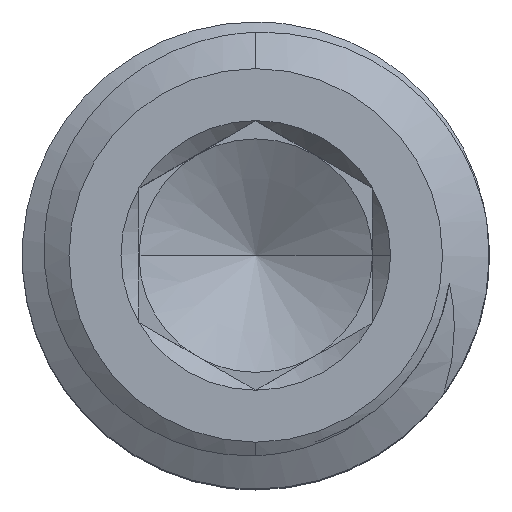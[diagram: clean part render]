
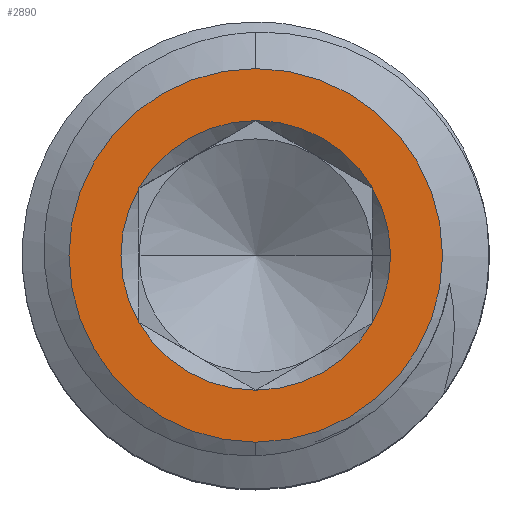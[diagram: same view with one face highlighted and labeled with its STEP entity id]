
A CAD part, top view. The second image highlights one B-rep face of the part: STEP entity #2890.
In plain terms, the highlighted planar face has unit normal (0, 0, 1).
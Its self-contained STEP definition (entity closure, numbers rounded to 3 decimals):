
#74 = DIRECTION ( 'NONE',  ( 1., 0., 0. ) ) ;
#157 = ORIENTED_EDGE ( 'NONE', *, *, #3527, .F. ) ;
#208 = ORIENTED_EDGE ( 'NONE', *, *, #2863, .F. ) ;
#242 = CIRCLE ( 'NONE', #3319, 2.4 ) ;
#295 = DIRECTION ( 'NONE',  ( 1., 0., 0. ) ) ;
#298 = CIRCLE ( 'NONE', #2939, 2.4 ) ;
#334 = EDGE_CURVE ( 'NONE', #3507, #2330, #1679, .T. ) ;
#372 = DIRECTION ( 'NONE',  ( 0., 0., 1. ) ) ;
#383 = DIRECTION ( 'NONE',  ( 0., 0., 1. ) ) ;
#386 = VERTEX_POINT ( 'NONE', #2826 ) ;
#403 = CARTESIAN_POINT ( 'NONE',  ( 0., 0., 4.506 ) ) ;
#428 = DIRECTION ( 'NONE',  ( 1., 0., 0. ) ) ;
#445 = DIRECTION ( 'NONE',  ( 0., 0., -1. ) ) ;
#485 = AXIS2_PLACEMENT_3D ( 'NONE', #2140, #372, #3050 ) ;
#520 = DIRECTION ( 'NONE',  ( 0., 0., 1. ) ) ;
#569 = DIRECTION ( 'NONE',  ( 0., 0., 1. ) ) ;
#623 = CARTESIAN_POINT ( 'NONE',  ( 0., 2.4, 4.506 ) ) ;
#760 = CARTESIAN_POINT ( 'NONE',  ( 0., 1.732, 4.506 ) ) ;
#782 = DIRECTION ( 'NONE',  ( 1., 0., 0. ) ) ;
#818 = AXIS2_PLACEMENT_3D ( 'NONE', #2778, #520, #1312 ) ;
#826 = CARTESIAN_POINT ( 'NONE',  ( -1.5, -0.866, 4.506 ) ) ;
#837 = ORIENTED_EDGE ( 'NONE', *, *, #1501, .F. ) ;
#851 = CIRCLE ( 'NONE', #3077, 1.732 ) ;
#858 = CARTESIAN_POINT ( 'NONE',  ( 0., 0., 4.506 ) ) ;
#978 = DIRECTION ( 'NONE',  ( 0., 0., 1. ) ) ;
#983 = VERTEX_POINT ( 'NONE', #760 ) ;
#993 = CARTESIAN_POINT ( 'NONE',  ( 0., 0., 4.506 ) ) ;
#1011 = DIRECTION ( 'NONE',  ( 0., 0., 1. ) ) ;
#1053 = CARTESIAN_POINT ( 'NONE',  ( 0., 0., 4.506 ) ) ;
#1095 = CARTESIAN_POINT ( 'NONE',  ( 1.732, 0., 4.506 ) ) ;
#1119 = VERTEX_POINT ( 'NONE', #1095 ) ;
#1199 = VERTEX_POINT ( 'NONE', #2700 ) ;
#1276 = CARTESIAN_POINT ( 'NONE',  ( 0., -2.4, 4.506 ) ) ;
#1312 = DIRECTION ( 'NONE',  ( 1., 0., 0. ) ) ;
#1342 = FACE_BOUND ( 'NONE', #3651, .T. ) ;
#1345 = CIRCLE ( 'NONE', #3569, 1.732 ) ;
#1501 = EDGE_CURVE ( 'NONE', #1119, #386, #2814, .T. ) ;
#1589 = CIRCLE ( 'NONE', #2819, 1.732 ) ;
#1597 = EDGE_CURVE ( 'NONE', #2236, #1664, #298, .T. ) ;
#1607 = CARTESIAN_POINT ( 'NONE',  ( 0., 0., 4.506 ) ) ;
#1664 = VERTEX_POINT ( 'NONE', #1276 ) ;
#1679 = CIRCLE ( 'NONE', #2365, 1.732 ) ;
#1734 = DIRECTION ( 'NONE',  ( 0., -1., 0. ) ) ;
#1765 = AXIS2_PLACEMENT_3D ( 'NONE', #2157, #978, #428 ) ;
#1828 = ORIENTED_EDGE ( 'NONE', *, *, #3079, .T. ) ;
#1866 = ORIENTED_EDGE ( 'NONE', *, *, #2447, .F. ) ;
#1898 = AXIS2_PLACEMENT_3D ( 'NONE', #1607, #445, #2538 ) ;
#1916 = ORIENTED_EDGE ( 'NONE', *, *, #334, .F. ) ;
#1978 = CIRCLE ( 'NONE', #818, 1.732 ) ;
#2140 = CARTESIAN_POINT ( 'NONE',  ( 0., 0., 4.506 ) ) ;
#2157 = CARTESIAN_POINT ( 'NONE',  ( 0., 0., 4.506 ) ) ;
#2193 = PLANE ( 'NONE',  #1898 ) ;
#2236 = VERTEX_POINT ( 'NONE', #623 ) ;
#2330 = VERTEX_POINT ( 'NONE', #2970 ) ;
#2365 = AXIS2_PLACEMENT_3D ( 'NONE', #2451, #2754, #295 ) ;
#2393 = CIRCLE ( 'NONE', #1765, 1.732 ) ;
#2447 = EDGE_CURVE ( 'NONE', #3111, #3507, #2393, .T. ) ;
#2451 = CARTESIAN_POINT ( 'NONE',  ( 0., 0., 4.506 ) ) ;
#2467 = CARTESIAN_POINT ( 'NONE',  ( 0., 0., 4.506 ) ) ;
#2485 = DIRECTION ( 'NONE',  ( 0., 0., 1. ) ) ;
#2525 = EDGE_CURVE ( 'NONE', #386, #983, #851, .T. ) ;
#2538 = DIRECTION ( 'NONE',  ( 0., 1., 0. ) ) ;
#2659 = EDGE_CURVE ( 'NONE', #1199, #1119, #1345, .T. ) ;
#2700 = CARTESIAN_POINT ( 'NONE',  ( 1.5, -0.866, 4.506 ) ) ;
#2754 = DIRECTION ( 'NONE',  ( 0., 0., 1. ) ) ;
#2778 = CARTESIAN_POINT ( 'NONE',  ( 0., 0., 4.506 ) ) ;
#2814 = CIRCLE ( 'NONE', #485, 1.732 ) ;
#2819 = AXIS2_PLACEMENT_3D ( 'NONE', #1053, #2485, #782 ) ;
#2826 = CARTESIAN_POINT ( 'NONE',  ( 1.5, 0.866, 4.506 ) ) ;
#2863 = EDGE_CURVE ( 'NONE', #983, #3111, #1589, .T. ) ;
#2890 = ADVANCED_FACE ( 'NONE', ( #1342, #3138 ), #2193, .F. ) ;
#2892 = ORIENTED_EDGE ( 'NONE', *, *, #2525, .F. ) ;
#2939 = AXIS2_PLACEMENT_3D ( 'NONE', #993, #1011, #3119 ) ;
#2970 = CARTESIAN_POINT ( 'NONE',  ( 0., -1.732, 4.506 ) ) ;
#3050 = DIRECTION ( 'NONE',  ( 1., 0., 0. ) ) ;
#3077 = AXIS2_PLACEMENT_3D ( 'NONE', #2467, #3645, #3336 ) ;
#3079 = EDGE_CURVE ( 'NONE', #1664, #2236, #242, .T. ) ;
#3111 = VERTEX_POINT ( 'NONE', #3187 ) ;
#3119 = DIRECTION ( 'NONE',  ( 0., -1., 0. ) ) ;
#3138 = FACE_OUTER_BOUND ( 'NONE', #3758, .T. ) ;
#3187 = CARTESIAN_POINT ( 'NONE',  ( -1.5, 0.866, 4.506 ) ) ;
#3319 = AXIS2_PLACEMENT_3D ( 'NONE', #858, #569, #1734 ) ;
#3336 = DIRECTION ( 'NONE',  ( 1., 0., 0. ) ) ;
#3398 = ORIENTED_EDGE ( 'NONE', *, *, #1597, .T. ) ;
#3507 = VERTEX_POINT ( 'NONE', #826 ) ;
#3527 = EDGE_CURVE ( 'NONE', #2330, #1199, #1978, .T. ) ;
#3569 = AXIS2_PLACEMENT_3D ( 'NONE', #403, #383, #74 ) ;
#3608 = ORIENTED_EDGE ( 'NONE', *, *, #2659, .F. ) ;
#3645 = DIRECTION ( 'NONE',  ( 0., 0., 1. ) ) ;
#3651 = EDGE_LOOP ( 'NONE', ( #208, #2892, #837, #3608, #157, #1916, #1866 ) ) ;
#3758 = EDGE_LOOP ( 'NONE', ( #3398, #1828 ) ) ;
